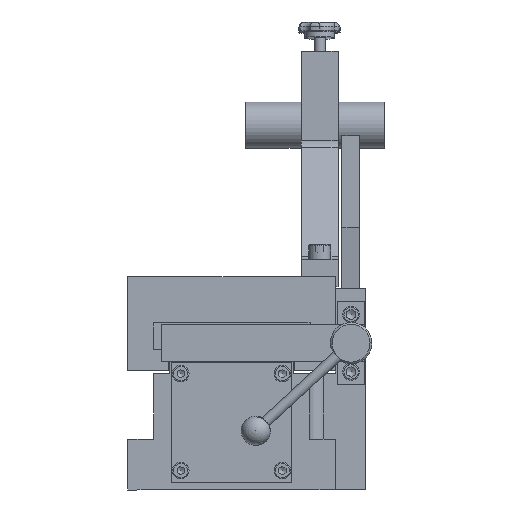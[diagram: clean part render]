
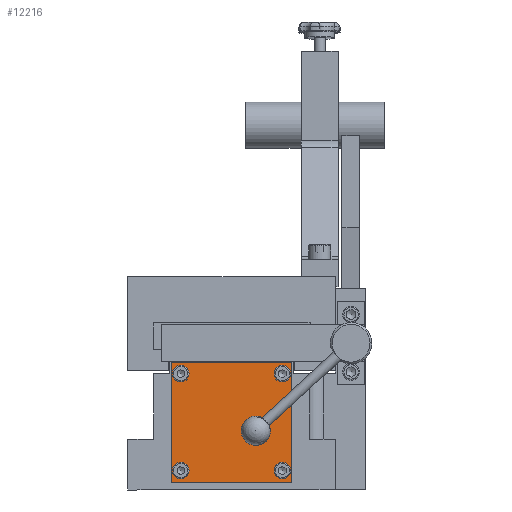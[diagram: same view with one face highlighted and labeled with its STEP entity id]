
A CAD part, front view. The second image highlights one B-rep face of the part: STEP entity #12216.
In plain terms, the highlighted planar face has unit normal (0, -1, 0).
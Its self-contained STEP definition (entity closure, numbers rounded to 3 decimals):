
#8237=CARTESIAN_POINT('',(445.01,-697.457,-8.28));
#8238=VERTEX_POINT('',#8237);
#8239=CARTESIAN_POINT('',(454.01,-697.457,-8.28));
#8240=DIRECTION('',(0.0,1.0,0.0));
#8241=DIRECTION('',(-1.0,0.0,0.0));
#8242=AXIS2_PLACEMENT_3D('',#8239,#8240,#8241);
#8243=CIRCLE('',#8242,9.);
#8244=EDGE_CURVE('',#8238,#8238,#8243,.T.);
#8544=CARTESIAN_POINT('',(335.01,-697.457,-8.28));
#8545=VERTEX_POINT('',#8544);
#8546=CARTESIAN_POINT('',(344.01,-697.457,-8.28));
#8547=DIRECTION('',(0.0,1.0,0.0));
#8548=DIRECTION('',(-1.0,0.0,0.0));
#8549=AXIS2_PLACEMENT_3D('',#8546,#8547,#8548);
#8550=CIRCLE('',#8549,9.);
#8551=EDGE_CURVE('',#8545,#8545,#8550,.T.);
#12149=CARTESIAN_POINT('',(399.01,-697.457,43.72));
#12150=DIRECTION('',(0.0,-1.0,0.0));
#12151=DIRECTION('',(1.0,0.0,0.0));
#12152=AXIS2_PLACEMENT_3D('',#12149,#12150,#12151);
#12153=PLANE('',#12152);
#12154=CARTESIAN_POINT('',(464.01,-697.457,108.72));
#12155=VERTEX_POINT('',#12154);
#12156=CARTESIAN_POINT('',(464.01,-697.457,-21.28));
#12157=VERTEX_POINT('',#12156);
#12158=CARTESIAN_POINT('',(464.01,-697.457,108.72));
#12159=DIRECTION('',(0.0,0.0,-1.0));
#12160=VECTOR('',#12159,130.);
#12161=LINE('',#12158,#12160);
#12162=EDGE_CURVE('',#12155,#12157,#12161,.T.);
#12163=ORIENTED_EDGE('',*,*,#12162,.F.);
#12164=CARTESIAN_POINT('',(334.01,-697.457,108.72));
#12165=VERTEX_POINT('',#12164);
#12166=CARTESIAN_POINT('',(334.01,-697.457,108.72));
#12167=DIRECTION('',(1.0,0.0,0.0));
#12168=VECTOR('',#12167,130.);
#12169=LINE('',#12166,#12168);
#12170=EDGE_CURVE('',#12165,#12155,#12169,.T.);
#12171=ORIENTED_EDGE('',*,*,#12170,.F.);
#12172=CARTESIAN_POINT('',(334.01,-697.457,-21.28));
#12173=VERTEX_POINT('',#12172);
#12174=CARTESIAN_POINT('',(334.01,-697.457,-21.28));
#12175=DIRECTION('',(0.0,0.0,1.0));
#12176=VECTOR('',#12175,130.0);
#12177=LINE('',#12174,#12176);
#12178=EDGE_CURVE('',#12173,#12165,#12177,.T.);
#12179=ORIENTED_EDGE('',*,*,#12178,.F.);
#12180=CARTESIAN_POINT('',(464.01,-697.457,-21.28));
#12181=DIRECTION('',(-1.0,0.0,0.0));
#12182=VECTOR('',#12181,130.0);
#12183=LINE('',#12180,#12182);
#12184=EDGE_CURVE('',#12157,#12173,#12183,.T.);
#12185=ORIENTED_EDGE('',*,*,#12184,.F.);
#12186=EDGE_LOOP('',(#12163,#12171,#12179,#12185));
#12187=FACE_OUTER_BOUND('',#12186,.T.);
#12188=ORIENTED_EDGE('',*,*,#8244,.T.);
#12189=EDGE_LOOP('',(#12188));
#12190=FACE_BOUND('',#12189,.T.);
#12191=CARTESIAN_POINT('',(445.01,-697.457,96.72));
#12192=VERTEX_POINT('',#12191);
#12193=CARTESIAN_POINT('',(454.01,-697.457,96.72));
#12194=DIRECTION('',(0.0,1.0,0.0));
#12195=DIRECTION('',(-1.0,0.0,0.0));
#12196=AXIS2_PLACEMENT_3D('',#12193,#12194,#12195);
#12197=CIRCLE('',#12196,9.);
#12198=EDGE_CURVE('',#12192,#12192,#12197,.T.);
#12199=ORIENTED_EDGE('',*,*,#12198,.T.);
#12200=EDGE_LOOP('',(#12199));
#12201=FACE_BOUND('',#12200,.T.);
#12202=ORIENTED_EDGE('',*,*,#8551,.T.);
#12203=EDGE_LOOP('',(#12202));
#12204=FACE_BOUND('',#12203,.T.);
#12205=CARTESIAN_POINT('',(335.01,-697.457,96.72));
#12206=VERTEX_POINT('',#12205);
#12207=CARTESIAN_POINT('',(344.01,-697.457,96.72));
#12208=DIRECTION('',(0.0,1.0,0.0));
#12209=DIRECTION('',(-1.0,0.0,0.0));
#12210=AXIS2_PLACEMENT_3D('',#12207,#12208,#12209);
#12211=CIRCLE('',#12210,9.);
#12212=EDGE_CURVE('',#12206,#12206,#12211,.T.);
#12213=ORIENTED_EDGE('',*,*,#12212,.T.);
#12214=EDGE_LOOP('',(#12213));
#12215=FACE_BOUND('',#12214,.T.);
#12216=ADVANCED_FACE('',(#12187,#12190,#12201,#12204,#12215),#12153,.T.);
